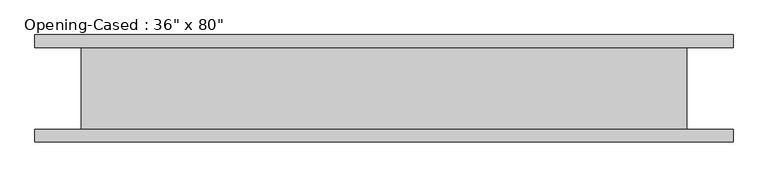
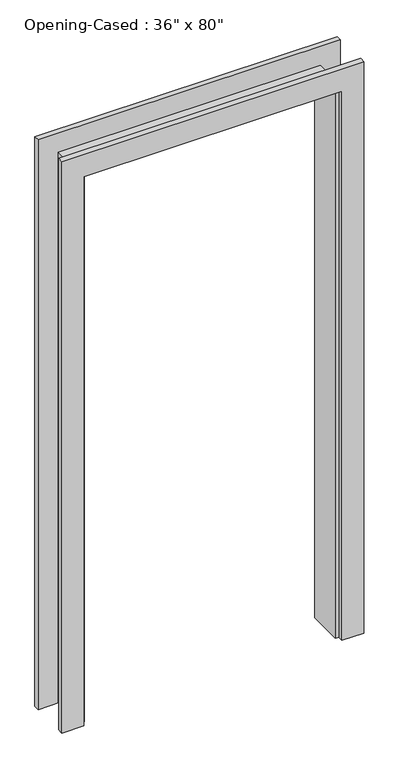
"""IFC4 building model written with IfcOpenShell, lengths in millimetres: proxy geometry."""

import ifcopenshell
import ifcopenshell.guid

model = None  # the IFC model being written
_history = None  # IfcOwnerHistory: only IFC2X3 demands one
_inside = {}  # id of a spatial element -> (the spatial element, [elements in it])
_under = {}  # id of a project, library or spatial element -> (it, [spatial elements below it])
_declared = {}  # id of a project -> (the project, [libraries it declares])
_typed = {}  # id of a type object -> (the type object, [elements of that type])
_made_of = {}  # id of a material, layer set ... -> (it, [elements and type objects made of it])


def new_model(schema):
    """Start an empty IFC model of exactly this schema.

    Asked for "IFC4X3", IfcOpenShell would pick the latest addendum, in which some entities
    have other attributes; the version numbers below select the first issue.
    IFC2X3 requires an IfcOwnerHistory on every rooted entity: one is made here for all.
    """
    global model, _history
    if schema == "IFC4X3":
        model = ifcopenshell.file(schema_version=(4, 3, 0, 0))
    else:
        model = ifcopenshell.file(schema=schema)
    _inside.clear()
    _under.clear()
    _declared.clear()
    _typed.clear()
    _made_of.clear()
    _history = None
    if model.schema == "IFC2X3":
        org = make("IfcOrganization", Name="unknown")
        user = make(
            "IfcPersonAndOrganization",
            ThePerson=make("IfcPerson", FamilyName="unknown"),
            TheOrganization=org,
        )
        app = make(
            "IfcApplication",
            ApplicationDeveloper=org,
            Version="unknown",
            ApplicationFullName="unknown",
            ApplicationIdentifier="unknown",
        )
        _history = make(
            "IfcOwnerHistory",
            OwningUser=user,
            OwningApplication=app,
            ChangeAction="ADDED",
            CreationDate=0,
        )
    return model


def make(cls, **values):
    """One entity of the class cls with the attributes given. An attribute that is None is left unset."""
    return model.create_entity(
        cls, **{name: value for name, value in values.items() if value is not None}
    )


def rooted(cls, **values):
    """An entity with a GlobalId (a new one), such as an element, a storey or a relation."""
    return make(cls, GlobalId=ifcopenshell.guid.new(), OwnerHistory=_history, **values)


def si_unit(unit_type, name, prefix=None):
    """IfcSIUnit, for example si_unit("LENGTHUNIT", "METRE", prefix="MILLI")."""
    return make("IfcSIUnit", UnitType=unit_type, Prefix=prefix, Name=name)


def assignment(units):
    """IfcUnitAssignment: the units of a project."""
    return None if units is None else make("IfcUnitAssignment", Units=units)


def point(xyz):
    """IfcCartesianPoint."""
    return None if xyz is None else make("IfcCartesianPoint", Coordinates=xyz)


def direction(xyz):
    """IfcDirection."""
    return None if xyz is None else make("IfcDirection", DirectionRatios=xyz)


def frame(location, z_axis=None, x_axis=None):
    """IfcAxis2Placement3D, a coordinate frame: its origin and axes. An axis left out is left unset."""
    return make(
        "IfcAxis2Placement3D",
        Location=point(location),
        Axis=direction(z_axis),
        RefDirection=direction(x_axis),
    )


def origin():
    """The frame at (0, 0, 0) with its axes left unset."""
    return frame((0.0, 0.0, 0.0))


def place(relative_to, where):
    """IfcLocalPlacement: puts the frame where relative to a parent placement (None: the world)."""
    return make(
        "IfcLocalPlacement", PlacementRelTo=relative_to, RelativePlacement=where
    )


def context(
    kind, dimensions, precision=None, world=None, true_north=None, identifier=None
):
    """IfcGeometricRepresentationContext, for example the 3D "Model" context."""
    return make(
        "IfcGeometricRepresentationContext",
        ContextIdentifier=identifier,
        ContextType=kind,
        CoordinateSpaceDimension=dimensions,
        Precision=precision,
        WorldCoordinateSystem=world,
        TrueNorth=true_north,
    )


def project(units=None, contexts=None):
    """IfcProject with its units and contexts."""
    return rooted(
        "IfcProject",
        Name="project",
        RepresentationContexts=contexts,
        UnitsInContext=assignment(units),
    )


def spatial(cls, under=None, at=None, **own):
    """A site, building, storey or space (cls), placed at a placement, below another one or the project."""
    s = rooted(cls, ObjectPlacement=at, **own)
    if under is not None:
        _under.setdefault(under.id(), (under, []))[1].append(s)
    return s


def polyline(points):
    """IfcPolyline through the points."""
    return make("IfcPolyline", Points=[point(p) for p in points])


def outline(outer, holes=None, kind="AREA"):
    """IfcArbitraryClosedProfileDef: a profile drawn as a closed curve; with holes, ...WithVoids."""
    if holes is None:
        return make("IfcArbitraryClosedProfileDef", ProfileType=kind, OuterCurve=outer)
    return make(
        "IfcArbitraryProfileDefWithVoids",
        ProfileType=kind,
        OuterCurve=outer,
        InnerCurves=holes,
    )


def extrude(swept, where, along, depth):
    """IfcExtrudedAreaSolid: the profile swept, set in the frame where, extruded along a direction by depth."""
    return make(
        "IfcExtrudedAreaSolid",
        SweptArea=swept,
        Position=where,
        ExtrudedDirection=direction(along),
        Depth=depth,
    )


def faces_of(points, faces, orient=None, outer=None):
    """IfcFace entities. A face is a list of loops; a loop is a list of indices into points, from 0.

    orient and outer hold one flag for each loop. By default every Orientation is true, the
    first loop of a face is its IfcFaceOuterBound and the others are IfcFaceBound.
    """
    made = []
    for i, loops in enumerate(faces):
        bounds = []
        for j, loop in enumerate(loops):
            is_outer = j == 0 if outer is None else outer[i][j]
            bounds.append(
                make(
                    "IfcFaceOuterBound" if is_outer else "IfcFaceBound",
                    Bound=make("IfcPolyLoop", Polygon=[points[k] for k in loop]),
                    Orientation=True if orient is None else orient[i][j],
                )
            )
        made.append(make("IfcFace", Bounds=bounds))
    return made


def faceted_brep(points, faces, orient=None, outer=None, voids=None):
    """IfcFacetedBrep: a solid bounded by flat faces; with voids (closed shells), ...WithVoids."""
    shared = [point(p) for p in points]
    hull = make("IfcClosedShell", CfsFaces=faces_of(shared, faces, orient, outer))
    if voids is None:
        return make("IfcFacetedBrep", Outer=hull)
    return make(
        "IfcFacetedBrepWithVoids",
        Outer=hull,
        Voids=[
            make(cls, CfsFaces=faces_of(shared, fs, o, b)) for cls, fs, o, b in voids
        ],
    )


def shape(context_of_items, identifier, shape_type, items):
    """IfcShapeRepresentation: the items that make up one representation, for example the "Body"."""
    return make(
        "IfcShapeRepresentation",
        ContextOfItems=context_of_items,
        RepresentationIdentifier=identifier,
        RepresentationType=shape_type,
        Items=items,
    )


def source(mapping_origin, context_of_items, identifier, shape_type, items):
    """IfcRepresentationMap: a shape defined once, which mapped items show again and again."""
    return make(
        "IfcRepresentationMap",
        MappingOrigin=mapping_origin,
        MappedRepresentation=shape(context_of_items, identifier, shape_type, items),
    )


def transform(
    local_origin,
    x_axis=None,
    y_axis=None,
    z_axis=None,
    scale=None,
    scale2=None,
    scale3=None,
    uniform=True,
):
    """IfcCartesianTransformationOperator3D, or its non-uniform kind. x_axis, y_axis, z_axis: its Axis1, 2, 3."""
    if uniform:
        return make(
            "IfcCartesianTransformationOperator3D",
            Axis1=direction(x_axis),
            Axis2=direction(y_axis),
            LocalOrigin=point(local_origin),
            Scale=scale,
            Axis3=direction(z_axis),
        )
    return make(
        "IfcCartesianTransformationOperator3DnonUniform",
        Axis1=direction(x_axis),
        Axis2=direction(y_axis),
        LocalOrigin=point(local_origin),
        Scale=scale,
        Axis3=direction(z_axis),
        Scale2=scale2,
        Scale3=scale3,
    )


def mapped(mapping_source, mapping_target):
    """IfcMappedItem: shows the shape of a source again, moved by a transform."""
    return make(
        "IfcMappedItem", MappingSource=mapping_source, MappingTarget=mapping_target
    )


def made_of(thing, what):
    """Note that an element or type object is made of a material, layer set ...; save() writes the relation."""
    if what is not None:
        _made_of.setdefault(what.id(), (what, []))[1].append(thing)
    return thing


def element(
    cls,
    number,
    at=None,
    inside=None,
    cuts=None,
    type_object=None,
    material=None,
    context=None,
    identifier="Body",
    shape_type=None,
    held_by="IfcProductDefinitionShape",
    body=None,
    shapes=None,
    **own,
):
    """One element of the class cls, such as IfcWall. Its Tag is "e" and its number.

    at: its placement. inside: the storey or other place that contains it. cuts: it is an
    opening in that element (IfcRelVoidsElement). A single representation is given by context,
    identifier, shape_type and body (its items); several are given by shapes. held_by: the class
    of the entity that holds the representations. save() writes the other relations.
    """
    e = rooted(cls, Tag="e%d" % number, ObjectPlacement=at, **own)
    if body is not None:
        shapes = [shape(context, identifier, shape_type, body)]
    if shapes is not None:
        e.Representation = make(held_by, Representations=shapes)
    if inside is not None:
        _inside.setdefault(inside.id(), (inside, []))[1].append(e)
    if cuts is not None:
        rooted(
            "IfcRelVoidsElement", RelatingBuildingElement=cuts, RelatedOpeningElement=e
        )
    if type_object is not None:
        _typed.setdefault(type_object.id(), (type_object, []))[1].append(e)
    return made_of(e, material)


def aggregate(whole, parts):
    """IfcRelAggregates: a whole, such as a stair, and the parts it consists of."""
    return rooted("IfcRelAggregates", RelatingObject=whole, RelatedObjects=parts)


def save(model, path):
    """Write the relations noted so far, then the file.

    IfcRelAggregates (storeys below a building ...), IfcRelContainedInSpatialStructure (elements
    in a storey), IfcRelDefinesByType, IfcRelAssociatesMaterial and IfcRelDeclares: one each for
    every whole, place, type object, material and project.
    """
    for whole, parts in _under.values():
        aggregate(whole, parts)
    for where, things in _inside.values():
        rooted(
            "IfcRelContainedInSpatialStructure",
            RelatedElements=things,
            RelatingStructure=where,
        )
    for kind, things in _typed.values():
        rooted("IfcRelDefinesByType", RelatedObjects=things, RelatingType=kind)
    for what, things in _made_of.values():
        rooted("IfcRelAssociatesMaterial", RelatedObjects=things, RelatingMaterial=what)
    for by, libraries in _declared.values():
        rooted("IfcRelDeclares", RelatingContext=by, RelatedDefinitions=libraries)
    model.write(path)


def proxy_c8829a06(model_context):
    return source(origin(), model_context, "Body", "SolidModel", [
        extrude(outline(polyline([(0.0, -459.0386567), (2025.65, -459.0386567), (2025.65, 442.6613433), (0.0, 442.6613433), (0.0, 518.8613433), (2101.85, 518.8613433), (2101.85, -535.2386567), (0.0, -535.2386567), (0.0, -459.0386567)])), frame((0.0, 61.9125, 0.0), z_axis=(0.0, 1.0, 0.0), x_axis=(0.0, 0.0, 1.0)), (0.0, 0.0, 1.0), 19.05),
        extrude(outline(polyline([(0.0, 518.8613433), (2108.2, 518.8613433), (2108.2, -535.2386567), (0.0, -535.2386567), (0.0, -459.0386567), (2025.65, -459.0386567), (2025.65, 442.6613433), (0.0, 442.6613433), (0.0, 518.8613433)])), frame((0.0, -80.9625, 0.0), z_axis=(0.0, 1.0, 0.0), x_axis=(0.0, 0.0, 1.0)), (0.0, 0.0, 1.0), 19.05),
        faceted_brep([(429.9613433, -61.9125, 0.0), (429.9613433, 61.9125, 0.0), (449.0113433, 61.9125, 0.0), (449.0113433, -61.9125, 0.0), (449.0113433, -61.9125, 2032.0), (429.9613433, -61.9125, 2012.95), (449.0113433, 61.9125, 2032.0), (429.9613433, 61.9125, 2012.95), (-465.3886567, -61.9125, 2032.0), (-446.3386567, -61.9125, 2012.95), (-465.3886567, 61.9125, 2032.0), (-446.3386567, 61.9125, 2012.95), (-446.3386567, -61.9125, 0.0), (-465.3886567, -61.9125, 0.0), (-465.3886567, 61.9125, 0.0), (-446.3386567, 61.9125, 0.0)], [[[0, 1, 2, 3]], [[3, 4, 5, 0]], [[2, 6, 4, 3]], [[1, 7, 6, 2]], [[0, 5, 7, 1]], [[4, 8, 9, 5]], [[6, 10, 8, 4]], [[7, 11, 10, 6]], [[5, 9, 11, 7]], [[12, 13, 14, 15]], [[8, 13, 12, 9]], [[10, 14, 13, 8]], [[11, 15, 14, 10]], [[9, 12, 15, 11]]]),
    ])


if __name__ == "__main__":
    model = new_model("IFC4")
    model_context = context("Model", 3, world=origin())
    ifc_project = project(units=[si_unit("LENGTHUNIT", "METRE", prefix="MILLI")], contexts=[model_context])
    site = spatial("IfcSite", under=ifc_project)
    building = spatial("IfcBuilding", under=site)
    placement = place(None, origin())
    proxy_shape = proxy_c8829a06(model_context)
    element("IfcBuildingElementProxy", 1, Name="Opening-Cased : 36\" x 80\"", ObjectType="Opening-Cased : 36\" x 80\"", at=placement, inside=building, context=model_context, shape_type="MappedRepresentation", body=[
        mapped(proxy_shape, transform((0.0, 0.0, 0.0), x_axis=(1.0, 0.0, 0.0), y_axis=(0.0, 1.0, 0.0), z_axis=(0.0, 0.0, 1.0))),
    ])
    save(model, "model.ifc")
